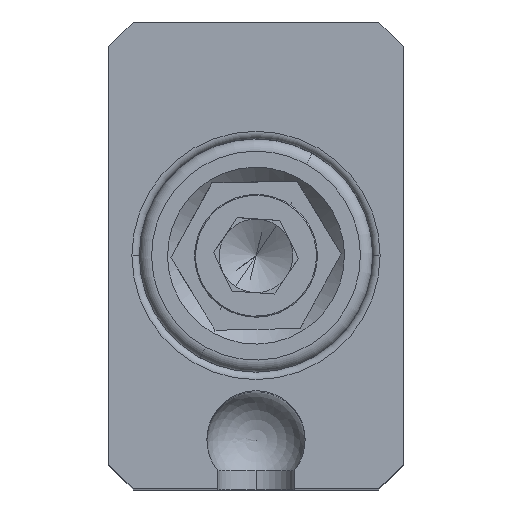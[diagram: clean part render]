
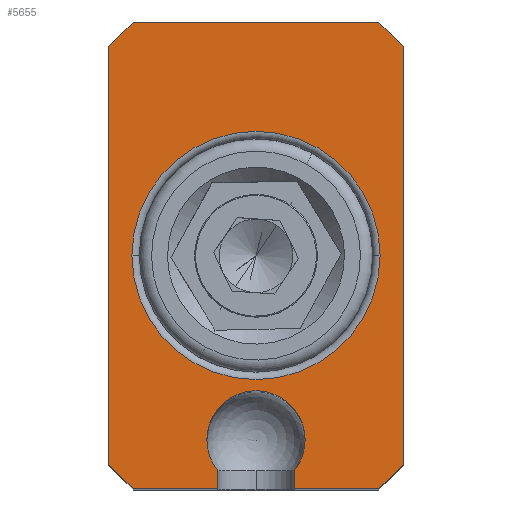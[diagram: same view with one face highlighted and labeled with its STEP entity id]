
A CAD part, top view. The second image highlights one B-rep face of the part: STEP entity #5655.
In plain terms, the highlighted planar face has unit normal (0, 0, 1).
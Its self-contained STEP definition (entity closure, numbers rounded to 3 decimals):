
#49 = LINE ( 'NONE', #6713, #2727 ) ;
#50 = CARTESIAN_POINT ( 'NONE',  ( -6., -9.75, 0. ) ) ;
#79 = EDGE_CURVE ( 'NONE', #1049, #4003, #2482, .T. ) ;
#163 = AXIS2_PLACEMENT_3D ( 'NONE', #1914, #5653, #2437 ) ;
#175 = CARTESIAN_POINT ( 'NONE',  ( -6., -8.75, 0. ) ) ;
#184 = CARTESIAN_POINT ( 'NONE',  ( -6., 8.25, 0. ) ) ;
#198 = VERTEX_POINT ( 'NONE', #1904 ) ;
#223 = ORIENTED_EDGE ( 'NONE', *, *, #4444, .T. ) ;
#355 = CARTESIAN_POINT ( 'NONE',  ( 0., -7.75, 0. ) ) ;
#400 = ORIENTED_EDGE ( 'NONE', *, *, #4662, .T. ) ;
#401 = ORIENTED_EDGE ( 'NONE', *, *, #5039, .F. ) ;
#459 = EDGE_LOOP ( 'NONE', ( #401, #1779, #1347, #4205, #223, #5284, #694, #3064, #5494, #400, #3183, #876, #2834, #3517 ) ) ;
#482 = CARTESIAN_POINT ( 'NONE',  ( -1.58, -8.976, 0. ) ) ;
#505 = PLANE ( 'NONE',  #3241 ) ;
#540 = VERTEX_POINT ( 'NONE', #4201 ) ;
#574 = EDGE_CURVE ( 'NONE', #198, #5941, #4993, .T. ) ;
#680 = DIRECTION ( 'NONE',  ( 0., -1., 0. ) ) ;
#694 = ORIENTED_EDGE ( 'NONE', *, *, #1705, .F. ) ;
#815 = LINE ( 'NONE', #2939, #6693 ) ;
#876 = ORIENTED_EDGE ( 'NONE', *, *, #79, .T. ) ;
#881 = VERTEX_POINT ( 'NONE', #1299 ) ;
#902 = DIRECTION ( 'NONE',  ( 1., 0., 0. ) ) ;
#960 = LINE ( 'NONE', #4925, #6340 ) ;
#1044 = CARTESIAN_POINT ( 'NONE',  ( 0., -0.25, 0. ) ) ;
#1049 = VERTEX_POINT ( 'NONE', #6892 ) ;
#1189 = DIRECTION ( 'NONE',  ( 0., 1., 0. ) ) ;
#1277 = CARTESIAN_POINT ( 'NONE',  ( 5., -9.75, 0. ) ) ;
#1285 = CARTESIAN_POINT ( 'NONE',  ( -6., -8.75, 0. ) ) ;
#1290 = EDGE_CURVE ( 'NONE', #6955, #6618, #5017, .T. ) ;
#1299 = CARTESIAN_POINT ( 'NONE',  ( -1.58, -9.75, 0. ) ) ;
#1347 = ORIENTED_EDGE ( 'NONE', *, *, #5166, .T. ) ;
#1391 = DIRECTION ( 'NONE',  ( 0., 0., 1. ) ) ;
#1417 = AXIS2_PLACEMENT_3D ( 'NONE', #355, #4108, #902 ) ;
#1584 = DIRECTION ( 'NONE',  ( -1., 0., 0. ) ) ;
#1587 = DIRECTION ( 'NONE',  ( 0., 0., -1. ) ) ;
#1705 = EDGE_CURVE ( 'NONE', #3598, #3146, #5183, .T. ) ;
#1779 = ORIENTED_EDGE ( 'NONE', *, *, #1290, .T. ) ;
#1801 = DIRECTION ( 'NONE',  ( 0.707, 0.707, 0. ) ) ;
#1904 = CARTESIAN_POINT ( 'NONE',  ( 5.05, -0.25, 0. ) ) ;
#1914 = CARTESIAN_POINT ( 'NONE',  ( 0., -7.75, 0. ) ) ;
#1918 = VERTEX_POINT ( 'NONE', #2107 ) ;
#1988 = VECTOR ( 'NONE', #6621, 1000. ) ;
#2107 = CARTESIAN_POINT ( 'NONE',  ( -5., -9.75, 0. ) ) ;
#2118 = CARTESIAN_POINT ( 'NONE',  ( 6., 9.25, 0. ) ) ;
#2164 = DIRECTION ( 'NONE',  ( 0., 0., -1. ) ) ;
#2310 = FACE_BOUND ( 'NONE', #5871, .T. ) ;
#2416 = DIRECTION ( 'NONE',  ( 0., -1., 0. ) ) ;
#2437 = DIRECTION ( 'NONE',  ( 1., 0., 0. ) ) ;
#2455 = EDGE_CURVE ( 'NONE', #6243, #3599, #4745, .T. ) ;
#2482 = LINE ( 'NONE', #1277, #3743 ) ;
#2518 = DIRECTION ( 'NONE',  ( -0.707, 0.707, 0. ) ) ;
#2600 = CARTESIAN_POINT ( 'NONE',  ( 1.58, -8.976, 0. ) ) ;
#2696 = DIRECTION ( 'NONE',  ( 1., 0., 0. ) ) ;
#2727 = VECTOR ( 'NONE', #4021, 1000. ) ;
#2797 = CARTESIAN_POINT ( 'NONE',  ( -6., 9.25, 0. ) ) ;
#2834 = ORIENTED_EDGE ( 'NONE', *, *, #4975, .F. ) ;
#2939 = CARTESIAN_POINT ( 'NONE',  ( 1.58, 0., 0. ) ) ;
#2941 = CARTESIAN_POINT ( 'NONE',  ( -2., -7.75, 0. ) ) ;
#3064 = ORIENTED_EDGE ( 'NONE', *, *, #6746, .F. ) ;
#3146 = VERTEX_POINT ( 'NONE', #482 ) ;
#3183 = ORIENTED_EDGE ( 'NONE', *, *, #5319, .T. ) ;
#3241 = AXIS2_PLACEMENT_3D ( 'NONE', #5851, #1587, #5338 ) ;
#3266 = CARTESIAN_POINT ( 'NONE',  ( 6., -8.75, 0. ) ) ;
#3300 = VECTOR ( 'NONE', #2518, 1000. ) ;
#3494 = VECTOR ( 'NONE', #6434, 1000. ) ;
#3517 = ORIENTED_EDGE ( 'NONE', *, *, #2455, .T. ) ;
#3598 = VERTEX_POINT ( 'NONE', #2941 ) ;
#3599 = VERTEX_POINT ( 'NONE', #6724 ) ;
#3612 = CARTESIAN_POINT ( 'NONE',  ( 6., 8.25, 0. ) ) ;
#3682 = CARTESIAN_POINT ( 'NONE',  ( -5., 9.25, 0. ) ) ;
#3710 = EDGE_CURVE ( 'NONE', #4891, #4895, #5581, .T. ) ;
#3743 = VECTOR ( 'NONE', #1801, 1000. ) ;
#3887 = ORIENTED_EDGE ( 'NONE', *, *, #4356, .T. ) ;
#4003 = VERTEX_POINT ( 'NONE', #3266 ) ;
#4021 = DIRECTION ( 'NONE',  ( 1., 0., 0. ) ) ;
#4108 = DIRECTION ( 'NONE',  ( 0., 0., 1. ) ) ;
#4201 = CARTESIAN_POINT ( 'NONE',  ( 1.58, -9.75, 0. ) ) ;
#4205 = ORIENTED_EDGE ( 'NONE', *, *, #5203, .T. ) ;
#4299 = CARTESIAN_POINT ( 'NONE',  ( -6., 9.25, 0. ) ) ;
#4356 = EDGE_CURVE ( 'NONE', #5941, #198, #5340, .T. ) ;
#4374 = AXIS2_PLACEMENT_3D ( 'NONE', #5371, #2164, #5909 ) ;
#4444 = EDGE_CURVE ( 'NONE', #1918, #881, #6609, .T. ) ;
#4465 = CARTESIAN_POINT ( 'NONE',  ( -5.05, -0.25, 0. ) ) ;
#4588 = LINE ( 'NONE', #4299, #5842 ) ;
#4602 = CARTESIAN_POINT ( 'NONE',  ( 0., -7.75, 0. ) ) ;
#4662 = EDGE_CURVE ( 'NONE', #4891, #540, #815, .T. ) ;
#4745 = LINE ( 'NONE', #6296, #3300 ) ;
#4749 = CARTESIAN_POINT ( 'NONE',  ( -5., 9.25, 0. ) ) ;
#4785 = DIRECTION ( 'NONE',  ( 0., 0., -1. ) ) ;
#4831 = LINE ( 'NONE', #175, #1988 ) ;
#4871 = DIRECTION ( 'NONE',  ( 1., 0., 0. ) ) ;
#4891 = VERTEX_POINT ( 'NONE', #2600 ) ;
#4895 = VERTEX_POINT ( 'NONE', #6367 ) ;
#4925 = CARTESIAN_POINT ( 'NONE',  ( -1.58, 0., 0. ) ) ;
#4975 = EDGE_CURVE ( 'NONE', #6243, #4003, #6869, .T. ) ;
#4978 = CIRCLE ( 'NONE', #163, 2. ) ;
#4993 = CIRCLE ( 'NONE', #6585, 5.05 ) ;
#5010 = VECTOR ( 'NONE', #680, 1000. ) ;
#5017 = LINE ( 'NONE', #4749, #6288 ) ;
#5039 = EDGE_CURVE ( 'NONE', #6955, #3599, #4588, .T. ) ;
#5141 = DIRECTION ( 'NONE',  ( 1., 0., 0. ) ) ;
#5166 = EDGE_CURVE ( 'NONE', #6618, #5974, #6445, .T. ) ;
#5183 = CIRCLE ( 'NONE', #6343, 2. ) ;
#5203 = EDGE_CURVE ( 'NONE', #5974, #1918, #4831, .T. ) ;
#5284 = ORIENTED_EDGE ( 'NONE', *, *, #6508, .T. ) ;
#5319 = EDGE_CURVE ( 'NONE', #540, #1049, #49, .T. ) ;
#5334 = FACE_OUTER_BOUND ( 'NONE', #459, .T. ) ;
#5338 = DIRECTION ( 'NONE',  ( -1., 0., 0. ) ) ;
#5340 = CIRCLE ( 'NONE', #4374, 5.05 ) ;
#5371 = CARTESIAN_POINT ( 'NONE',  ( 0., -0.25, 0. ) ) ;
#5494 = ORIENTED_EDGE ( 'NONE', *, *, #3710, .F. ) ;
#5581 = CIRCLE ( 'NONE', #1417, 2. ) ;
#5653 = DIRECTION ( 'NONE',  ( 0., 0., 1. ) ) ;
#5655 = ADVANCED_FACE ( 'NONE', ( #2310, #5334 ), #505, .F. ) ;
#5816 = DIRECTION ( 'NONE',  ( -0.707, -0.707, 0. ) ) ;
#5842 = VECTOR ( 'NONE', #2696, 1000. ) ;
#5851 = CARTESIAN_POINT ( 'NONE',  ( 0., 0., 0. ) ) ;
#5858 = ORIENTED_EDGE ( 'NONE', *, *, #574, .T. ) ;
#5871 = EDGE_LOOP ( 'NONE', ( #3887, #5858 ) ) ;
#5909 = DIRECTION ( 'NONE',  ( -1., 0., 0. ) ) ;
#5941 = VERTEX_POINT ( 'NONE', #4465 ) ;
#5974 = VERTEX_POINT ( 'NONE', #1285 ) ;
#6243 = VERTEX_POINT ( 'NONE', #3612 ) ;
#6288 = VECTOR ( 'NONE', #5816, 1000. ) ;
#6296 = CARTESIAN_POINT ( 'NONE',  ( 6., 8.25, 0. ) ) ;
#6340 = VECTOR ( 'NONE', #1189, 1000. ) ;
#6343 = AXIS2_PLACEMENT_3D ( 'NONE', #4602, #1391, #5141 ) ;
#6367 = CARTESIAN_POINT ( 'NONE',  ( 2., -7.75, 0. ) ) ;
#6434 = DIRECTION ( 'NONE',  ( 0., -1., 0. ) ) ;
#6442 = VECTOR ( 'NONE', #4871, 1000. ) ;
#6445 = LINE ( 'NONE', #2797, #5010 ) ;
#6508 = EDGE_CURVE ( 'NONE', #881, #3146, #960, .T. ) ;
#6585 = AXIS2_PLACEMENT_3D ( 'NONE', #1044, #4785, #1584 ) ;
#6609 = LINE ( 'NONE', #50, #6442 ) ;
#6618 = VERTEX_POINT ( 'NONE', #184 ) ;
#6621 = DIRECTION ( 'NONE',  ( 0.707, -0.707, 0. ) ) ;
#6693 = VECTOR ( 'NONE', #2416, 1000. ) ;
#6713 = CARTESIAN_POINT ( 'NONE',  ( -6., -9.75, 0. ) ) ;
#6724 = CARTESIAN_POINT ( 'NONE',  ( 5., 9.25, 0. ) ) ;
#6746 = EDGE_CURVE ( 'NONE', #4895, #3598, #4978, .T. ) ;
#6869 = LINE ( 'NONE', #2118, #3494 ) ;
#6892 = CARTESIAN_POINT ( 'NONE',  ( 5., -9.75, 0. ) ) ;
#6955 = VERTEX_POINT ( 'NONE', #3682 ) ;
